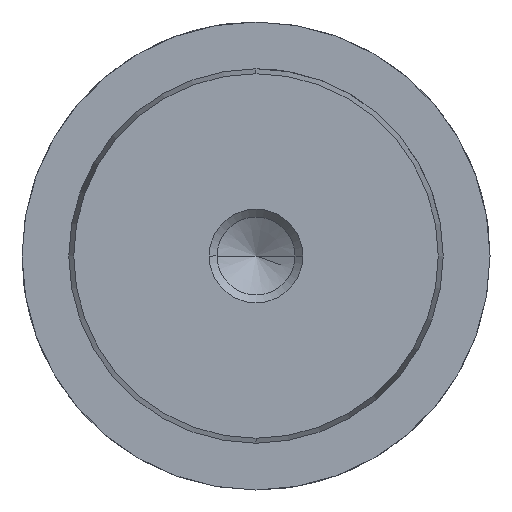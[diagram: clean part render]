
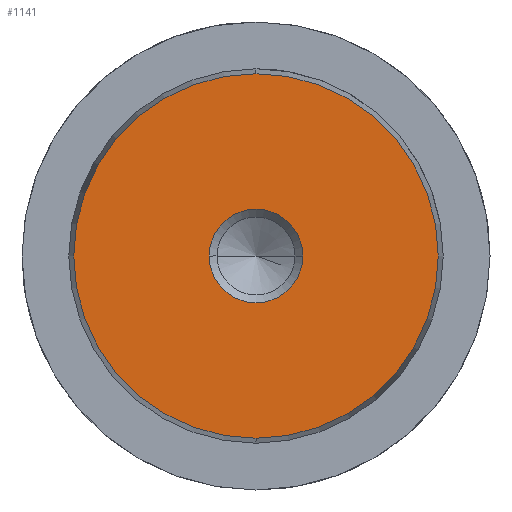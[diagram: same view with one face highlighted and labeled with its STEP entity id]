
A CAD part, left-side view. The second image highlights one B-rep face of the part: STEP entity #1141.
In plain terms, the highlighted planar face has unit normal (-1, 0, 0).
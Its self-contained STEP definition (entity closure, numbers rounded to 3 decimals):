
#1055=CARTESIAN_POINT('Vertex',(0.,0.,-15.578)) ;
#1058=CARTESIAN_POINT('Axis2P3D Location',(0.,0.,0.)) ;
#1062=CARTESIAN_POINT('Vertex',(0.,15.578,0.)) ;
#1065=CARTESIAN_POINT('Axis2P3D Location',(0.,0.,0.)) ;
#1069=CARTESIAN_POINT('Vertex',(0.,0.,15.578)) ;
#1091=CARTESIAN_POINT('Axis2P3D Location',(0.,0.,0.)) ;
#1095=CARTESIAN_POINT('Vertex',(0.,-15.578,0.)) ;
#1098=CARTESIAN_POINT('Axis2P3D Location',(0.,0.,0.)) ;
#1112=CARTESIAN_POINT('Axis2P3D Location',(0.,0.,0.)) ;
#1123=CARTESIAN_POINT('Axis2P3D Location',(0.,0.,0.)) ;
#1127=CARTESIAN_POINT('Vertex',(0.,4.,0.)) ;
#1129=CARTESIAN_POINT('Vertex',(0.,-4.,0.)) ;
#1132=CARTESIAN_POINT('Axis2P3D Location',(0.,0.,0.)) ;
#1059=DIRECTION('Axis2P3D Direction',(1.,-0.,0.)) ;
#1066=DIRECTION('Axis2P3D Direction',(1.,-0.,0.)) ;
#1092=DIRECTION('Axis2P3D Direction',(1.,0.,-0.)) ;
#1099=DIRECTION('Axis2P3D Direction',(1.,0.,-0.)) ;
#1113=DIRECTION('Axis2P3D Direction',(1.,0.,-0.)) ;
#1114=DIRECTION('Axis2P3D XDirection',(-0.,0.,-1.)) ;
#1124=DIRECTION('Axis2P3D Direction',(1.,0.,-0.)) ;
#1133=DIRECTION('Axis2P3D Direction',(1.,0.,-0.)) ;
#1060=AXIS2_PLACEMENT_3D('Circle Axis2P3D',#1058,#1059,$) ;
#1067=AXIS2_PLACEMENT_3D('Circle Axis2P3D',#1065,#1066,$) ;
#1093=AXIS2_PLACEMENT_3D('Circle Axis2P3D',#1091,#1092,$) ;
#1100=AXIS2_PLACEMENT_3D('Circle Axis2P3D',#1098,#1099,$) ;
#1115=AXIS2_PLACEMENT_3D('Plane Axis2P3D',#1112,#1113,#1114) ;
#1125=AXIS2_PLACEMENT_3D('Circle Axis2P3D',#1123,#1124,$) ;
#1134=AXIS2_PLACEMENT_3D('Circle Axis2P3D',#1132,#1133,$) ;
#1118=ORIENTED_EDGE('',*,*,#1064,.F.) ;
#1119=ORIENTED_EDGE('',*,*,#1102,.F.) ;
#1120=ORIENTED_EDGE('',*,*,#1097,.F.) ;
#1121=ORIENTED_EDGE('',*,*,#1071,.F.) ;
#1138=ORIENTED_EDGE('',*,*,#1131,.T.) ;
#1139=ORIENTED_EDGE('',*,*,#1136,.T.) ;
#1140=FACE_BOUND('',#1137,.T.) ;
#1141=ADVANCED_FACE('719-32x280',(#1122,#1140),#1116,.F.) ;
#1061=CIRCLE('generated circle',#1060,15.578) ;
#1068=CIRCLE('generated circle',#1067,15.578) ;
#1094=CIRCLE('generated circle',#1093,15.578) ;
#1101=CIRCLE('generated circle',#1100,15.578) ;
#1126=CIRCLE('generated circle',#1125,4.) ;
#1135=CIRCLE('generated circle',#1134,4.) ;
#1064=EDGE_CURVE('',#1056,#1063,#1061,.T.) ;
#1071=EDGE_CURVE('',#1063,#1070,#1068,.T.) ;
#1097=EDGE_CURVE('',#1070,#1096,#1094,.T.) ;
#1102=EDGE_CURVE('',#1096,#1056,#1101,.T.) ;
#1131=EDGE_CURVE('',#1128,#1130,#1126,.T.) ;
#1136=EDGE_CURVE('',#1130,#1128,#1135,.T.) ;
#1117=EDGE_LOOP('',(#1118,#1119,#1120,#1121)) ;
#1137=EDGE_LOOP('',(#1138,#1139)) ;
#1122=FACE_OUTER_BOUND('',#1117,.T.) ;
#1116=PLANE('Plane',#1115) ;
#1056=VERTEX_POINT('',#1055) ;
#1063=VERTEX_POINT('',#1062) ;
#1070=VERTEX_POINT('',#1069) ;
#1096=VERTEX_POINT('',#1095) ;
#1128=VERTEX_POINT('',#1127) ;
#1130=VERTEX_POINT('',#1129) ;
